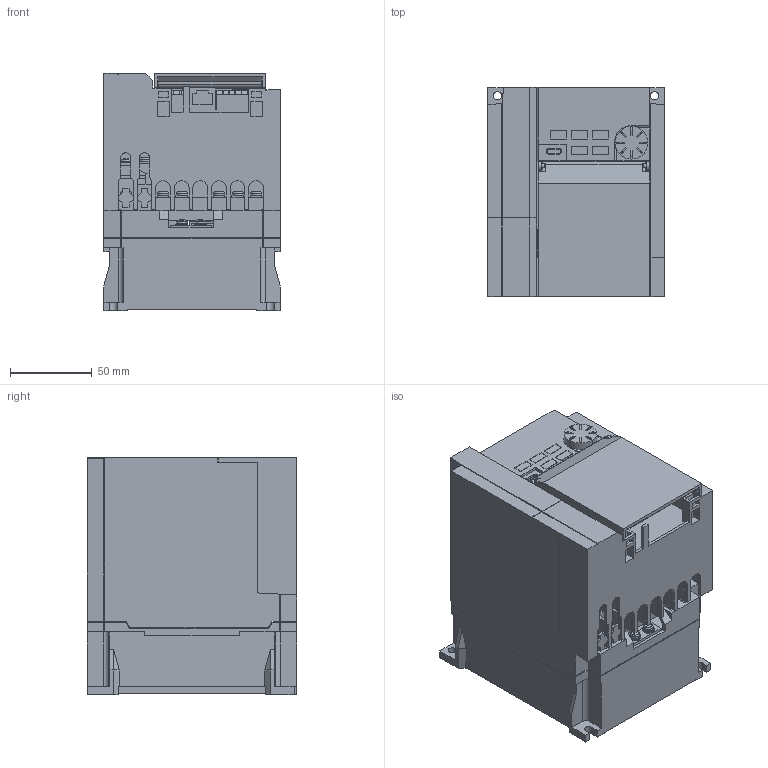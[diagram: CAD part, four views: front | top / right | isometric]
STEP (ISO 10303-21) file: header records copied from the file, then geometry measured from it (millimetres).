
FILE_DESCRIPTION((''),'2;1');
FILE_NAME('3D-INV-53_05_ASM','2024-11-26T16:17:18',('CT89920'),(''),'CREO PARAMETRIC BY PTC INC, 2022281','CREO PARAMETRIC BY PTC INC, 2022281','');
FILE_SCHEMA(('CONFIG_CONTROL_DESIGN','SHAPE_APPEARANCE_LAYERS_GROUPS'));
Length unit declared in the file: millimetre
Products named in the file (9): 3D-BASE-53_05; 3D-FAN_UNIT-51_05; 3D-TE_SHORT-31_06; 3D-TE_NEJI-M4X8-ZA7; 3D-TE-NEJI-34_05_ASM; 3D-SW-PW-P-M3_5X10; 3D-W_COV-53_04; 3D-S_COV-D80-1_5; 3D-INV-53_05_ASM
Assembly tree (17 placements, depth 3):
  3D-INV-53_05_ASM
    3D-BASE-53_05
    3D-FAN_UNIT-51_05
    3D-TE-NEJI-34_05_ASM
      3D-TE_SHORT-31_06
      3D-TE_NEJI-M4X8-ZA7  x9
    3D-SW-PW-P-M3_5X10  x2
    3D-W_COV-53_04
    3D-S_COV-D80-1_5
Bounding box: 108 x 128 x 145 mm (x, y, z)
Volume: 728992.7 mm3; surface area: 268815.7 mm2
Topology: 16 solids, 17 shells, 1314 faces, 3541 edges, 2286 vertices
Faces by surface type: plane 1067, cylinder 163, torus 24, cone 22, sphere 22, extrusion 16
Entity records: 45798 total; most frequent: CARTESIAN_POINT 7210, ORIENTED_EDGE 6402, DIRECTION 5856, EDGE_CURVE 3201, VECTOR 2854, LINE 2838, VERTEX_POINT 2099, PRESENTATION_STYLE_ASSIGNMENT 1773
